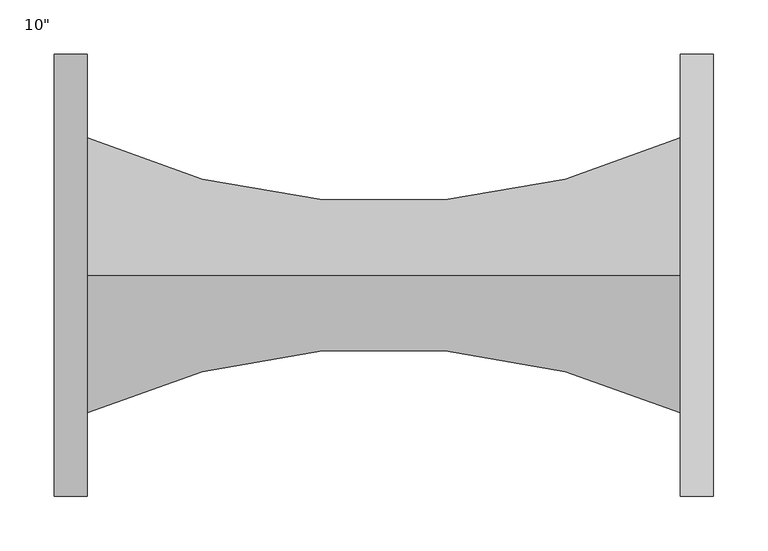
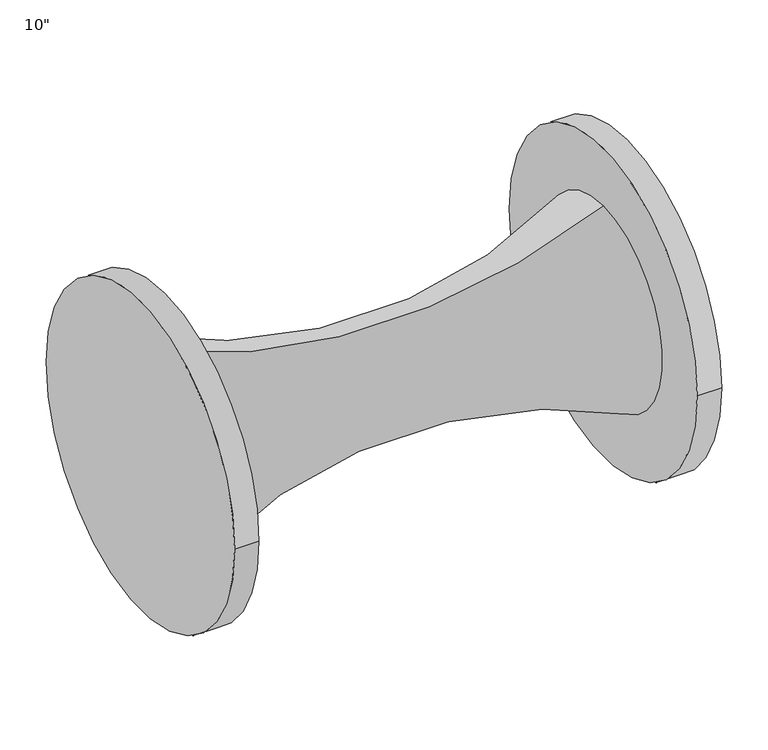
"""IFC4 building model written with IfcOpenShell, lengths in millimetres: valve geometry."""

import ifcopenshell
import ifcopenshell.guid

model = None  # the IFC model being written
_history = None  # IfcOwnerHistory: only IFC2X3 demands one
_inside = {}  # id of a spatial element -> (the spatial element, [elements in it])
_under = {}  # id of a project, library or spatial element -> (it, [spatial elements below it])
_declared = {}  # id of a project -> (the project, [libraries it declares])
_typed = {}  # id of a type object -> (the type object, [elements of that type])
_made_of = {}  # id of a material, layer set ... -> (it, [elements and type objects made of it])


def new_model(schema):
    """Start an empty IFC model of exactly this schema.

    Asked for "IFC4X3", IfcOpenShell would pick the latest addendum, in which some entities
    have other attributes; the version numbers below select the first issue.
    IFC2X3 requires an IfcOwnerHistory on every rooted entity: one is made here for all.
    """
    global model, _history
    if schema == "IFC4X3":
        model = ifcopenshell.file(schema_version=(4, 3, 0, 0))
    else:
        model = ifcopenshell.file(schema=schema)
    _inside.clear()
    _under.clear()
    _declared.clear()
    _typed.clear()
    _made_of.clear()
    _history = None
    if model.schema == "IFC2X3":
        org = make("IfcOrganization", Name="unknown")
        user = make(
            "IfcPersonAndOrganization",
            ThePerson=make("IfcPerson", FamilyName="unknown"),
            TheOrganization=org,
        )
        app = make(
            "IfcApplication",
            ApplicationDeveloper=org,
            Version="unknown",
            ApplicationFullName="unknown",
            ApplicationIdentifier="unknown",
        )
        _history = make(
            "IfcOwnerHistory",
            OwningUser=user,
            OwningApplication=app,
            ChangeAction="ADDED",
            CreationDate=0,
        )
    return model


def make(cls, **values):
    """One entity of the class cls with the attributes given. An attribute that is None is left unset."""
    return model.create_entity(
        cls, **{name: value for name, value in values.items() if value is not None}
    )


def rooted(cls, **values):
    """An entity with a GlobalId (a new one), such as an element, a storey or a relation."""
    return make(cls, GlobalId=ifcopenshell.guid.new(), OwnerHistory=_history, **values)


def si_unit(unit_type, name, prefix=None):
    """IfcSIUnit, for example si_unit("LENGTHUNIT", "METRE", prefix="MILLI")."""
    return make("IfcSIUnit", UnitType=unit_type, Prefix=prefix, Name=name)


def assignment(units):
    """IfcUnitAssignment: the units of a project."""
    return None if units is None else make("IfcUnitAssignment", Units=units)


def point(xyz):
    """IfcCartesianPoint."""
    return None if xyz is None else make("IfcCartesianPoint", Coordinates=xyz)


def direction(xyz):
    """IfcDirection."""
    return None if xyz is None else make("IfcDirection", DirectionRatios=xyz)


def frame(location, z_axis=None, x_axis=None):
    """IfcAxis2Placement3D, a coordinate frame: its origin and axes. An axis left out is left unset."""
    return make(
        "IfcAxis2Placement3D",
        Location=point(location),
        Axis=direction(z_axis),
        RefDirection=direction(x_axis),
    )


def frame_2d(location, x_axis=None):
    """IfcAxis2Placement2D, a coordinate frame in the plane: its origin and x axis."""
    return make(
        "IfcAxis2Placement2D", Location=point(location), RefDirection=direction(x_axis)
    )


def origin():
    """The frame at (0, 0, 0) with its axes left unset."""
    return frame((0.0, 0.0, 0.0))


def place(relative_to, where):
    """IfcLocalPlacement: puts the frame where relative to a parent placement (None: the world)."""
    return make(
        "IfcLocalPlacement", PlacementRelTo=relative_to, RelativePlacement=where
    )


def context(
    kind, dimensions, precision=None, world=None, true_north=None, identifier=None
):
    """IfcGeometricRepresentationContext, for example the 3D "Model" context."""
    return make(
        "IfcGeometricRepresentationContext",
        ContextIdentifier=identifier,
        ContextType=kind,
        CoordinateSpaceDimension=dimensions,
        Precision=precision,
        WorldCoordinateSystem=world,
        TrueNorth=true_north,
    )


def project(units=None, contexts=None):
    """IfcProject with its units and contexts."""
    return rooted(
        "IfcProject",
        Name="project",
        RepresentationContexts=contexts,
        UnitsInContext=assignment(units),
    )


def spatial(cls, under=None, at=None, **own):
    """A site, building, storey or space (cls), placed at a placement, below another one or the project."""
    s = rooted(cls, ObjectPlacement=at, **own)
    if under is not None:
        _under.setdefault(under.id(), (under, []))[1].append(s)
    return s


def circle_curve(where, radius):
    """IfcCircle in the frame where."""
    return make("IfcCircle", Position=where, Radius=radius)


def ellipse_curve(where, semi_axis1, semi_axis2):
    """IfcEllipse in the frame where."""
    return make(
        "IfcEllipse", Position=where, SemiAxis1=semi_axis1, SemiAxis2=semi_axis2
    )


def trimmed(basis, trim1, trim2, sense, master):
    """IfcTrimmedCurve: the piece of a basis curve between two trims."""
    return make(
        "IfcTrimmedCurve",
        BasisCurve=basis,
        Trim1=trim1,
        Trim2=trim2,
        SenseAgreement=sense,
        MasterRepresentation=master,
    )


def segment(curve, same_sense, transition):
    """IfcCompositeCurveSegment."""
    return make(
        "IfcCompositeCurveSegment",
        Transition=transition,
        SameSense=same_sense,
        ParentCurve=curve,
    )


def composite_curve(segments, self_intersect=None):
    """IfcCompositeCurve: segments joined end to end."""
    return make("IfcCompositeCurve", Segments=segments, SelfIntersect=self_intersect)


def outline(outer, holes=None, kind="AREA"):
    """IfcArbitraryClosedProfileDef: a profile drawn as a closed curve; with holes, ...WithVoids."""
    if holes is None:
        return make("IfcArbitraryClosedProfileDef", ProfileType=kind, OuterCurve=outer)
    return make(
        "IfcArbitraryProfileDefWithVoids",
        ProfileType=kind,
        OuterCurve=outer,
        InnerCurves=holes,
    )


def extrude(swept, where, along, depth):
    """IfcExtrudedAreaSolid: the profile swept, set in the frame where, extruded along a direction by depth."""
    return make(
        "IfcExtrudedAreaSolid",
        SweptArea=swept,
        Position=where,
        ExtrudedDirection=direction(along),
        Depth=depth,
    )


def shape(context_of_items, identifier, shape_type, items):
    """IfcShapeRepresentation: the items that make up one representation, for example the "Body"."""
    return make(
        "IfcShapeRepresentation",
        ContextOfItems=context_of_items,
        RepresentationIdentifier=identifier,
        RepresentationType=shape_type,
        Items=items,
    )


def source(mapping_origin, context_of_items, identifier, shape_type, items):
    """IfcRepresentationMap: a shape defined once, which mapped items show again and again."""
    return make(
        "IfcRepresentationMap",
        MappingOrigin=mapping_origin,
        MappedRepresentation=shape(context_of_items, identifier, shape_type, items),
    )


def transform(
    local_origin,
    x_axis=None,
    y_axis=None,
    z_axis=None,
    scale=None,
    scale2=None,
    scale3=None,
    uniform=True,
):
    """IfcCartesianTransformationOperator3D, or its non-uniform kind. x_axis, y_axis, z_axis: its Axis1, 2, 3."""
    if uniform:
        return make(
            "IfcCartesianTransformationOperator3D",
            Axis1=direction(x_axis),
            Axis2=direction(y_axis),
            LocalOrigin=point(local_origin),
            Scale=scale,
            Axis3=direction(z_axis),
        )
    return make(
        "IfcCartesianTransformationOperator3DnonUniform",
        Axis1=direction(x_axis),
        Axis2=direction(y_axis),
        LocalOrigin=point(local_origin),
        Scale=scale,
        Axis3=direction(z_axis),
        Scale2=scale2,
        Scale3=scale3,
    )


def mapped(mapping_source, mapping_target):
    """IfcMappedItem: shows the shape of a source again, moved by a transform."""
    return make(
        "IfcMappedItem", MappingSource=mapping_source, MappingTarget=mapping_target
    )


def made_of(thing, what):
    """Note that an element or type object is made of a material, layer set ...; save() writes the relation."""
    if what is not None:
        _made_of.setdefault(what.id(), (what, []))[1].append(thing)
    return thing


def element(
    cls,
    number,
    at=None,
    inside=None,
    cuts=None,
    type_object=None,
    material=None,
    context=None,
    identifier="Body",
    shape_type=None,
    held_by="IfcProductDefinitionShape",
    body=None,
    shapes=None,
    **own,
):
    """One element of the class cls, such as IfcWall. Its Tag is "e" and its number.

    at: its placement. inside: the storey or other place that contains it. cuts: it is an
    opening in that element (IfcRelVoidsElement). A single representation is given by context,
    identifier, shape_type and body (its items); several are given by shapes. held_by: the class
    of the entity that holds the representations. save() writes the other relations.
    """
    e = rooted(cls, Tag="e%d" % number, ObjectPlacement=at, **own)
    if body is not None:
        shapes = [shape(context, identifier, shape_type, body)]
    if shapes is not None:
        e.Representation = make(held_by, Representations=shapes)
    if inside is not None:
        _inside.setdefault(inside.id(), (inside, []))[1].append(e)
    if cuts is not None:
        rooted(
            "IfcRelVoidsElement", RelatingBuildingElement=cuts, RelatedOpeningElement=e
        )
    if type_object is not None:
        _typed.setdefault(type_object.id(), (type_object, []))[1].append(e)
    return made_of(e, material)


def aggregate(whole, parts):
    """IfcRelAggregates: a whole, such as a stair, and the parts it consists of."""
    return rooted("IfcRelAggregates", RelatingObject=whole, RelatedObjects=parts)


def save(model, path):
    """Write the relations noted so far, then the file.

    IfcRelAggregates (storeys below a building ...), IfcRelContainedInSpatialStructure (elements
    in a storey), IfcRelDefinesByType, IfcRelAssociatesMaterial and IfcRelDeclares: one each for
    every whole, place, type object, material and project.
    """
    for whole, parts in _under.values():
        aggregate(whole, parts)
    for where, things in _inside.values():
        rooted(
            "IfcRelContainedInSpatialStructure",
            RelatedElements=things,
            RelatingStructure=where,
        )
    for kind, things in _typed.values():
        rooted("IfcRelDefinesByType", RelatedObjects=things, RelatingType=kind)
    for what, things in _made_of.values():
        rooted("IfcRelAssociatesMaterial", RelatedObjects=things, RelatingMaterial=what)
    for by, libraries in _declared.values():
        rooted("IfcRelDeclares", RelatingContext=by, RelatedDefinitions=libraries)
    model.write(path)


def plane_surface(at):
    """IfcPlane: the flat surface through the origin of the frame at, square to its z axis."""
    return make("IfcPlane", Position=at)


def revolved_surface(curve, axis_point, axis_direction):
    """IfcSurfaceOfRevolution: the curve turned about the line through axis_point along axis_direction."""
    return make(
        "IfcSurfaceOfRevolution",
        SweptCurve=make("IfcArbitraryOpenProfileDef", ProfileType="CURVE", Curve=curve),
        AxisPosition=make("IfcAxis1Placement", Location=point(axis_point), Axis=direction(axis_direction)),
    )


def advanced_brep(points, edges, surfaces, faces):
    """IfcAdvancedBrep: a solid bounded by faces that lie on surfaces and meet in shared edges.

    An edge is (start, end): straight between two places in points (the first is 0);
    or (start, end, curve); or (start, end, curve, False) where it runs against its curve.
    A face is (place in surfaces, loops), or (place, loops, False) where it looks against
    its surface's normal. A loop lists edges by number (the first is 1), with a minus sign
    where the edge is run from its end to its start. The first loop is the outer one.
    """
    corners = [point(p) for p in points]
    vertices = [make("IfcVertexPoint", VertexGeometry=c) for c in corners]
    made = []
    for start, end, *more in edges:
        made.append(
            make(
                "IfcEdgeCurve",
                EdgeStart=vertices[start],
                EdgeEnd=vertices[end],
                EdgeGeometry=more[0] if more else make("IfcPolyline", Points=[corners[start], corners[end]]),
                SameSense=more[1] if len(more) > 1 else True,
            )
        )
    hull = []
    for where, loops, *sense in faces:
        bounds = []
        for j, loop in enumerate(loops):
            ring = [make("IfcOrientedEdge", EdgeElement=made[abs(k) - 1], Orientation=k > 0) for k in loop]
            bounds.append(
                make(
                    "IfcFaceOuterBound" if j == 0 else "IfcFaceBound",
                    Bound=make("IfcEdgeLoop", EdgeList=ring),
                    Orientation=True,
                )
            )
        hull.append(make("IfcAdvancedFace", Bounds=bounds, FaceSurface=surfaces[where], SameSense=sense[0] if sense else True))
    return make("IfcAdvancedBrep", Outer=make("IfcClosedShell", CfsFaces=hull))


def valve_9b57d195(model_context):
    return source(origin(), model_context, "Body", "SolidModel", [
        advanced_brep(
        [(4285.3918919, -380.2814225, 308.8404204), (4285.3918919, -380.2814225, 435.8404204), (4285.3918919, -380.2814225, 181.8404204), (4831.4918919, -380.2814225, 181.8404204), (4831.4918919, -380.2814225, 435.8404204), (4831.4918919, -380.2814225, 308.8404204)],
        [
            (0, 1),
            (1, 2, circle_curve(frame((4285.3918919, -380.2814225, 308.8404204), z_axis=(-1.0, 0.0, 0.0), x_axis=(0.0, 0.0, 1.0)), 127.0)),
            (2, 0),
            (2, 1, circle_curve(frame((4285.3918919, -380.2814225, 308.8404204), z_axis=(-1.0, 0.0, 0.0), x_axis=(0.0, 0.0, 1.0)), 127.0)),
            (3, 4, circle_curve(frame((4831.4918919, -380.2814225, 308.8404204), z_axis=(1.0, 0.0, 0.0), x_axis=(0.0, 0.0, 1.0)), 127.0)),
            (4, 5),
            (5, 3),
            (4, 3, circle_curve(frame((4831.4918919, -380.2814225, 308.8404204), z_axis=(1.0, 0.0, 0.0), x_axis=(0.0, 0.0, 1.0)), 127.0)),
            (1, 4, circle_curve(frame((4558.4418919, -380.2814225, 1030.1678554), z_axis=(0.0, -1.0, 0.0), x_axis=(1.0, 0.0, 0.0)), 654.05)),
            (3, 2, circle_curve(frame((4558.4418919, -380.2814225, -412.4870146), z_axis=(0.0, -1.0, 0.0), x_axis=(1.0, 0.0, 0.0)), 654.05)),
        ],
        [
            plane_surface(frame((4285.3918919, -380.2814225, 308.8404204), z_axis=(-1.0, 0.0, 0.0), x_axis=(0.0, 0.0, 1.0))),
            plane_surface(frame((4831.4918919, -380.2814225, 308.8404204), z_axis=(1.0, 0.0, 0.0), x_axis=(0.0, 0.0, 1.0))),
            revolved_surface(trimmed(ellipse_curve(frame((4558.4418919, -380.2814225, 1030.1678554), z_axis=(0.0, 1.0, 0.0), x_axis=(1.0, 0.0, 0.0)), 654.05, 654.05), [point((4831.4918919, -380.2814225, 435.8404204))], [point((4285.3918919, -380.2814225, 435.8404204))], True, "CARTESIAN"), (4285.3918919, -380.2814225, 308.8404204), (-1.0, 0.0, 0.0)),
        ],
        [
            (0, [[1, 2, 3]]),
            (0, [[-3, 4, -1]]),
            (1, [[5, 6, 7]]),
            (1, [[8, -7, -6]]),
            (2, [[-2, 9, -5, 10]]),
            (2, [[-4, -10, -8, -9]]),
        ],
    ),
        extrude(outline(composite_curve([segment(trimmed(circle_curve(frame_2d((-380.2814225, 308.8404204)), 203.2), [point((-177.0814225, 308.8404204))], [point((-583.4814225, 308.8404204))], False, "CARTESIAN"), True, "CONTINUOUS"), segment(trimmed(circle_curve(frame_2d((-380.2814225, 308.8404204)), 203.2), [point((-583.4814225, 308.8404204))], [point((-177.0814225, 308.8404204))], False, "CARTESIAN"), True, "CONTINUOUS")], self_intersect=False)), frame((4831.4918919, 0.0, 0.0), z_axis=(1.0, 0.0, 0.0), x_axis=(0.0, 1.0, 0.0)), (0.0, 0.0, 1.0), 30.1625),
        extrude(outline(composite_curve([segment(trimmed(circle_curve(frame_2d((-380.2814225, 308.8204584)), 203.2), [point((-177.0814225, 308.8204584))], [point((-583.4814225, 308.8204584))], False, "CARTESIAN"), True, "CONTINUOUS"), segment(trimmed(circle_curve(frame_2d((-380.2814225, 308.8204584)), 203.2), [point((-583.4814225, 308.8204584))], [point((-177.0814225, 308.8204584))], False, "CARTESIAN"), True, "CONTINUOUS")], self_intersect=False)), frame((4255.2293919, 0.0, 0.0), z_axis=(1.0, 0.0, 0.0), x_axis=(0.0, 1.0, 0.0)), (0.0, 0.0, 1.0), 30.1625),
    ])


if __name__ == "__main__":
    model = new_model("IFC4")
    model_context = context("Model", 3, world=origin())
    ifc_project = project(units=[si_unit("LENGTHUNIT", "METRE", prefix="MILLI")], contexts=[model_context])
    site = spatial("IfcSite", under=ifc_project)
    building = spatial("IfcBuilding", under=site)
    placement = place(None, origin())
    valve_shape = valve_9b57d195(model_context)
    element("IfcValve", 1, ObjectType="VenturI Valve : 10\"", at=placement, inside=building, context=model_context, shape_type="MappedRepresentation", body=[
        mapped(valve_shape, transform((0.0, 0.0, 0.0), x_axis=(1.0, 0.0, 0.0), y_axis=(0.0, 1.0, 0.0), z_axis=(0.0, 0.0, 1.0))),
    ])
    save(model, "model.ifc")
